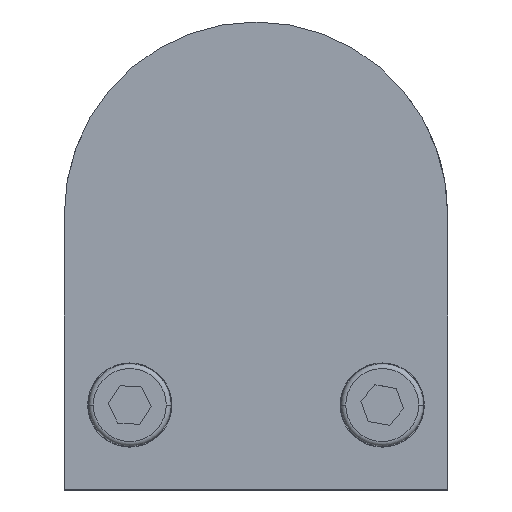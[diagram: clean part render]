
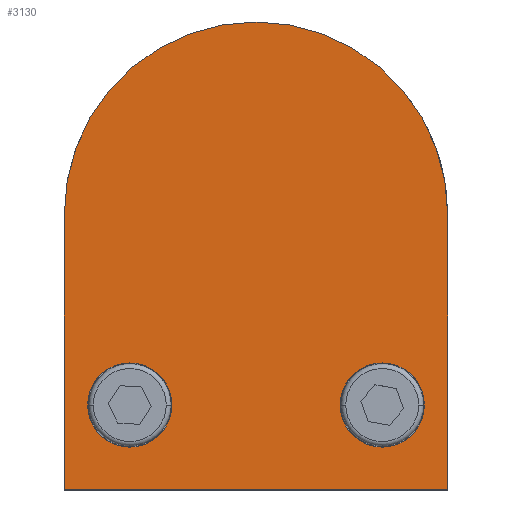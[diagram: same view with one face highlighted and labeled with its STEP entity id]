
A CAD part, top view. The second image highlights one B-rep face of the part: STEP entity #3130.
In plain terms, the highlighted planar face has unit normal (0, 0, 1).
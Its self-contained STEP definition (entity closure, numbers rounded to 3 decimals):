
#1 = EDGE_LOOP ( 'NONE', ( #2060, #473, #2338, #429 ) ) ;
#2 = VERTEX_POINT ( 'NONE', #1371 ) ;
#24 = CARTESIAN_POINT ( 'NONE',  ( 13.5, 39.038, 14.25 ) ) ;
#37 = AXIS2_PLACEMENT_3D ( 'NONE', #1571, #2631, #1335 ) ;
#60 = VERTEX_POINT ( 'NONE', #856 ) ;
#103 = EDGE_CURVE ( 'NONE', #2521, #1554, #167, .T. ) ;
#160 = DIRECTION ( 'NONE',  ( 0., -1., 0. ) ) ;
#167 = LINE ( 'NONE', #2496, #1799 ) ;
#244 = VERTEX_POINT ( 'NONE', #1998 ) ;
#361 = VERTEX_POINT ( 'NONE', #1353 ) ;
#411 = DIRECTION ( 'NONE',  ( 1., 0., 0. ) ) ;
#429 = ORIENTED_EDGE ( 'NONE', *, *, #1359, .T. ) ;
#444 = VECTOR ( 'NONE', #160, 1000. ) ;
#473 = ORIENTED_EDGE ( 'NONE', *, *, #103, .T. ) ;
#543 = CARTESIAN_POINT ( 'NONE',  ( 20.5, 30., 14.25 ) ) ;
#582 = EDGE_LOOP ( 'NONE', ( #2928, #2540 ) ) ;
#596 = EDGE_CURVE ( 'NONE', #244, #1405, #1741, .T. ) ;
#672 = DIRECTION ( 'NONE',  ( 0., 0., 1. ) ) ;
#675 = VECTOR ( 'NONE', #1831, 1000. ) ;
#752 = CARTESIAN_POINT ( 'NONE',  ( -13.5, 39.038, 14.25 ) ) ;
#762 = ORIENTED_EDGE ( 'NONE', *, *, #1506, .F. ) ;
#773 = CARTESIAN_POINT ( 'NONE',  ( 0., 30., 14.25 ) ) ;
#821 = VERTEX_POINT ( 'NONE', #1648 ) ;
#856 = CARTESIAN_POINT ( 'NONE',  ( -20.5, 30., 14.25 ) ) ;
#912 = DIRECTION ( 'NONE',  ( 0., 0., 1. ) ) ;
#992 = CIRCLE ( 'NONE', #1471, 4.5 ) ;
#1047 = DIRECTION ( 'NONE',  ( 1., 0., 0. ) ) ;
#1063 = DIRECTION ( 'NONE',  ( 0., 1., 0. ) ) ;
#1128 = EDGE_CURVE ( 'NONE', #821, #361, #3314, .T. ) ;
#1137 = EDGE_CURVE ( 'NONE', #1405, #244, #1577, .T. ) ;
#1213 = CIRCLE ( 'NONE', #37, 20.5 ) ;
#1252 = DIRECTION ( 'NONE',  ( 0., 0., 1. ) ) ;
#1335 = DIRECTION ( 'NONE',  ( 1., 0., 0. ) ) ;
#1353 = CARTESIAN_POINT ( 'NONE',  ( -18., 39.038, 14.25 ) ) ;
#1359 = EDGE_CURVE ( 'NONE', #2, #60, #2506, .T. ) ;
#1371 = CARTESIAN_POINT ( 'NONE',  ( -20.5, 59.5, 14.25 ) ) ;
#1381 = AXIS2_PLACEMENT_3D ( 'NONE', #3030, #672, #411 ) ;
#1392 = EDGE_LOOP ( 'NONE', ( #2151, #762 ) ) ;
#1405 = VERTEX_POINT ( 'NONE', #2185 ) ;
#1416 = AXIS2_PLACEMENT_3D ( 'NONE', #24, #3050, #1047 ) ;
#1471 = AXIS2_PLACEMENT_3D ( 'NONE', #752, #3042, #1789 ) ;
#1506 = EDGE_CURVE ( 'NONE', #361, #821, #992, .T. ) ;
#1554 = VERTEX_POINT ( 'NONE', #2860 ) ;
#1571 = CARTESIAN_POINT ( 'NONE',  ( 0., 59.5, 14.25 ) ) ;
#1577 = CIRCLE ( 'NONE', #1416, 4.5 ) ;
#1637 = AXIS2_PLACEMENT_3D ( 'NONE', #3297, #1252, #2022 ) ;
#1648 = CARTESIAN_POINT ( 'NONE',  ( -9., 39.038, 14.25 ) ) ;
#1715 = DIRECTION ( 'NONE',  ( 1., 0., 0. ) ) ;
#1741 = CIRCLE ( 'NONE', #2295, 4.5 ) ;
#1789 = DIRECTION ( 'NONE',  ( 1., 0., 0. ) ) ;
#1799 = VECTOR ( 'NONE', #1063, 1000. ) ;
#1831 = DIRECTION ( 'NONE',  ( -1., 0., 0. ) ) ;
#1961 = FACE_BOUND ( 'NONE', #582, .T. ) ;
#1998 = CARTESIAN_POINT ( 'NONE',  ( 9., 39.038, 14.25 ) ) ;
#2022 = DIRECTION ( 'NONE',  ( 1., 0., 0. ) ) ;
#2060 = ORIENTED_EDGE ( 'NONE', *, *, #3172, .F. ) ;
#2142 = EDGE_CURVE ( 'NONE', #1554, #2, #1213, .T. ) ;
#2151 = ORIENTED_EDGE ( 'NONE', *, *, #1128, .F. ) ;
#2172 = FACE_BOUND ( 'NONE', #1392, .T. ) ;
#2185 = CARTESIAN_POINT ( 'NONE',  ( 18., 39.038, 14.25 ) ) ;
#2275 = LINE ( 'NONE', #773, #675 ) ;
#2295 = AXIS2_PLACEMENT_3D ( 'NONE', #2451, #912, #1715 ) ;
#2338 = ORIENTED_EDGE ( 'NONE', *, *, #2142, .T. ) ;
#2451 = CARTESIAN_POINT ( 'NONE',  ( 13.5, 39.038, 14.25 ) ) ;
#2496 = CARTESIAN_POINT ( 'NONE',  ( 20.5, 0., 14.25 ) ) ;
#2506 = LINE ( 'NONE', #2967, #444 ) ;
#2510 = FACE_OUTER_BOUND ( 'NONE', #1, .T. ) ;
#2521 = VERTEX_POINT ( 'NONE', #543 ) ;
#2540 = ORIENTED_EDGE ( 'NONE', *, *, #596, .F. ) ;
#2631 = DIRECTION ( 'NONE',  ( 0., 0., 1. ) ) ;
#2860 = CARTESIAN_POINT ( 'NONE',  ( 20.5, 59.5, 14.25 ) ) ;
#2928 = ORIENTED_EDGE ( 'NONE', *, *, #1137, .F. ) ;
#2967 = CARTESIAN_POINT ( 'NONE',  ( -20.5, 0., 14.25 ) ) ;
#2998 = PLANE ( 'NONE',  #1381 ) ;
#3030 = CARTESIAN_POINT ( 'NONE',  ( 0., 59.5, 14.25 ) ) ;
#3042 = DIRECTION ( 'NONE',  ( 0., 0., 1. ) ) ;
#3050 = DIRECTION ( 'NONE',  ( 0., 0., 1. ) ) ;
#3130 = ADVANCED_FACE ( 'NONE', ( #2172, #1961, #2510 ), #2998, .T. ) ;
#3172 = EDGE_CURVE ( 'NONE', #2521, #60, #2275, .T. ) ;
#3297 = CARTESIAN_POINT ( 'NONE',  ( -13.5, 39.038, 14.25 ) ) ;
#3314 = CIRCLE ( 'NONE', #1637, 4.5 ) ;
